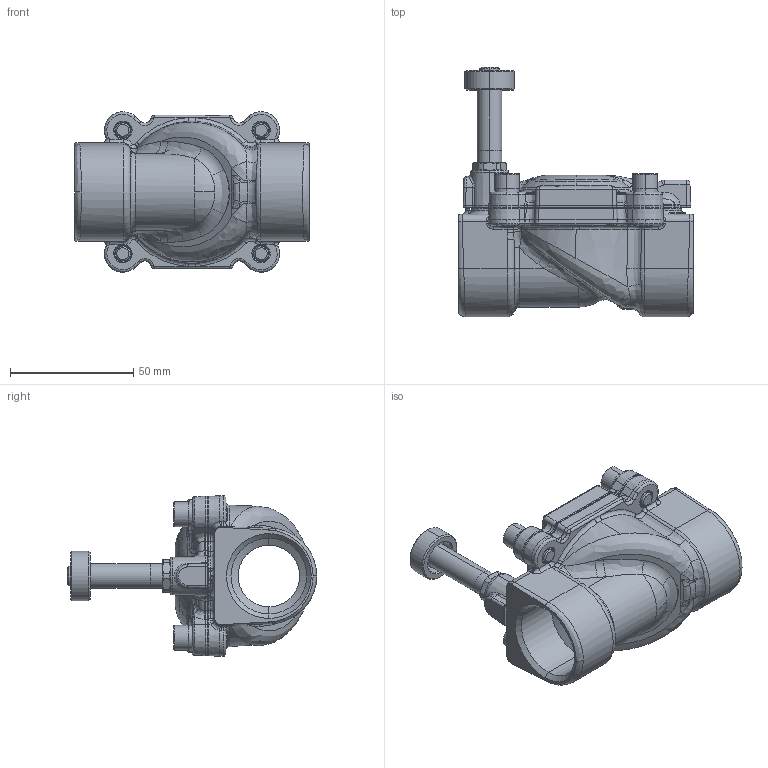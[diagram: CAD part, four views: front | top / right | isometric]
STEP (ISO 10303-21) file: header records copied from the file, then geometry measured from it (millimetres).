
FILE_DESCRIPTION (( 'STEP AP214' ), '1' );
FILE_NAME ('04F09225E0.STEP', '2015-09-14T09:11:59', ( '' ), ( '' ), 'SwSTEP 2.0', 'SolidWorks 2015', '' );
FILE_SCHEMA (( 'AUTOMOTIVE_DESIGN' ));
Length unit declared in the file: millimetre
Products named in the file (1): 04F09225E0
Bounding box: 95 x 101.08 x 65 mm (x, y, z)
Surface area: 36360.8 mm2 (no closed solid volume)
Topology: 0 solids, 20 shells, 897 faces, 2281 edges, 1370 vertices
Faces by surface type: bspline 379, cylinder 171, plane 137, torus 91, cone 90, sphere 29
Entity records: 54513 total; most frequent: CARTESIAN_POINT 26066, ORIENTED_EDGE 4224, DIRECTION 3355, EDGE_CURVE 2253, AXIS2_PLACEMENT_3D 1437, VERTEX_POINT 1365, EDGE_LOOP 930, CIRCLE 920
